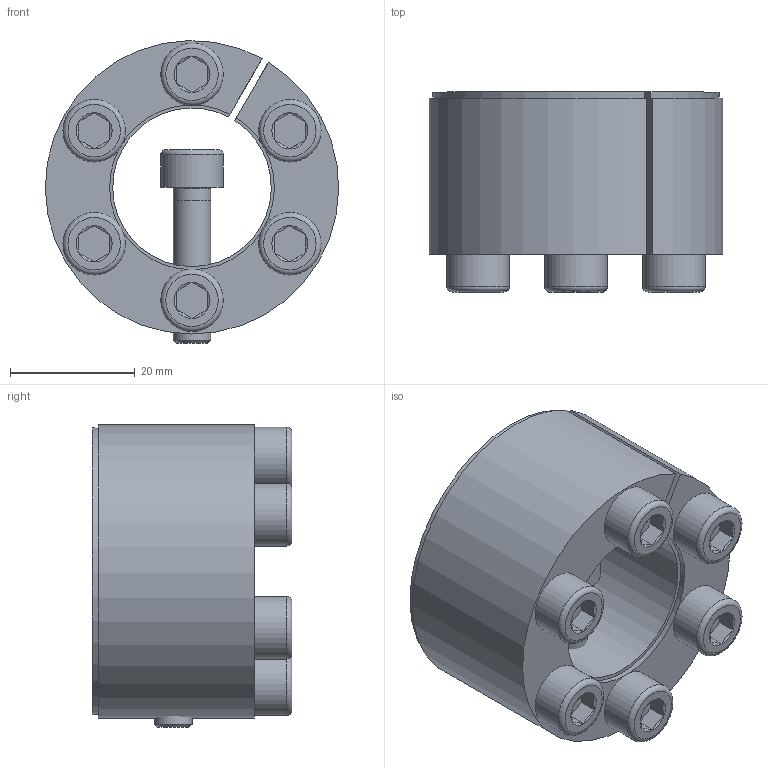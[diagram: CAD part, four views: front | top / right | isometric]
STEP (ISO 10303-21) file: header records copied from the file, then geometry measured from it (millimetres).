
FILE_DESCRIPTION( ( 'Unknown' ), '1' );
FILE_NAME( 'C:/Dokumente und Einstellungen/Sven/Desktop/homepage/cad - homepage/KBS61/KBS 61 - 25,4 x 47.stp', 'Unknown', ( 'Unknown' ), ( 'Unknown' ), 'XStep 1.0', 'Unknown', ' ' );
FILE_SCHEMA( ( 'automotive_design' ) );
Length unit declared in the file: millimetre
Products named in the file (3): Assem1; KBS 61 - 25,4 x 47; ISO EN DIN 4762 M6x25
Bounding box: 47 x 32 x 48.49 mm (x, y, z)
Volume: 61879 mm3; surface area: 29007.6 mm2
Topology: 9 solids, 9 shells, 207 faces, 397 edges, 236 vertices
Faces by surface type: plane 96, cone 53, cylinder 44, torus 14
Full cylindrical faces by diameter (mm): 5 x7, 6 x26, 10 x7
Entity records: 1282 total; most frequent: CARTESIAN_POINT 229, DIRECTION 196, ORIENTED_EDGE 142, AXIS2_PLACEMENT_3D 86, EDGE_CURVE 71, EDGE_LOOP 70, FACE_OUTER_BOUND 53, VERTEX_POINT 51
